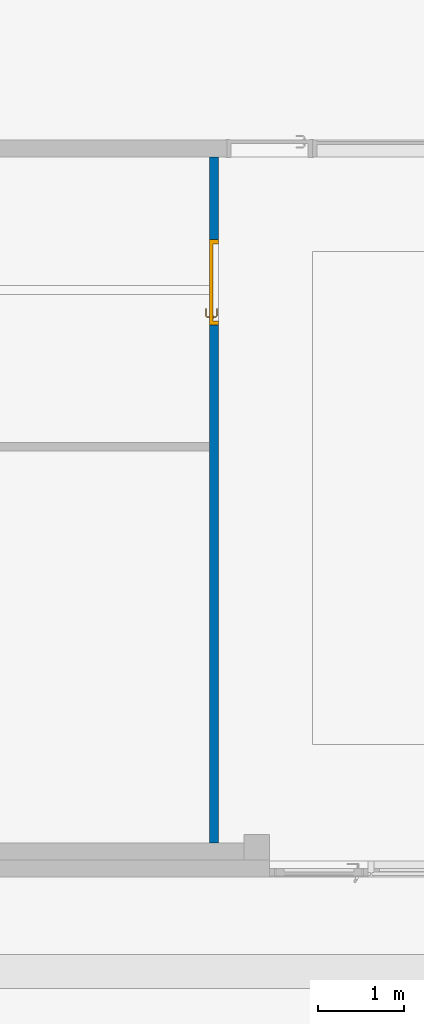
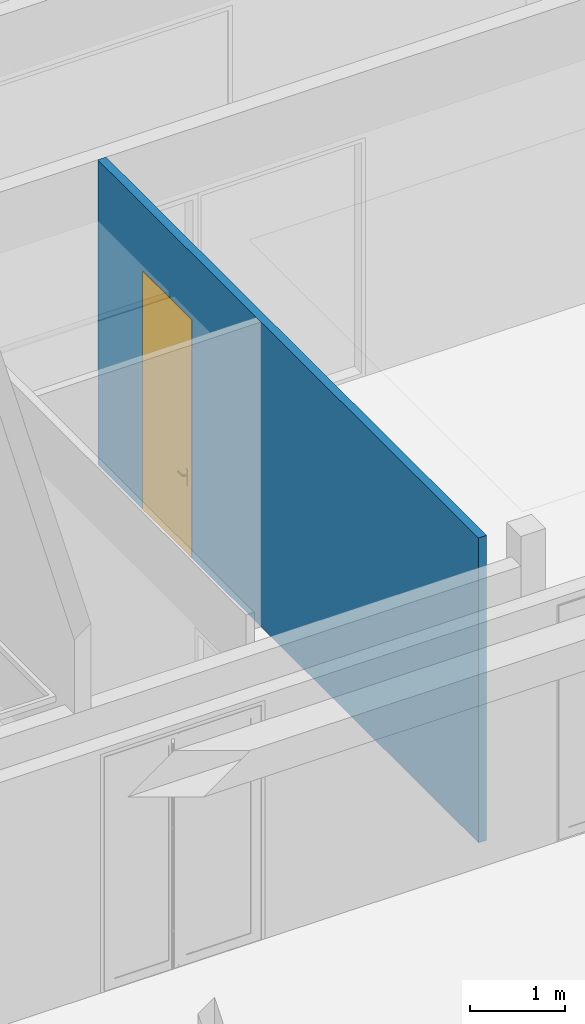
# One storey, part 126 of 240: 1 door, 1 wall, 1 opening.
"""IFC2X3 building model written with IfcOpenShell, lengths in centimetres."""

from ifc_helpers import new_model, entity, si_unit, converted_unit, derived_unit, direction, frame, frame_2d, origin, place, context, subcontext, project, spatial, polyline, rectangle, extrude, clip, bounded_halfspace, faceted_brep, source, transform, mapped, material, material_list, layer, layer_set, layer_usage, type_object, type_shapes, element, fill, save


model = new_model("IFC2X3")

# Units and contexts
model_context = context("Model", 3, precision=0.001, world=origin(), true_north=direction((6.12303176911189e-17, 1.0)))
body_context = subcontext(model_context, "Body", "Model", "MODEL_VIEW")
ifc_project = project(units=[si_unit("LENGTHUNIT", "METRE", prefix="CENTI"), si_unit("AREAUNIT", "SQUARE_METRE"), si_unit("VOLUMEUNIT", "CUBIC_METRE"), converted_unit("PLANEANGLEUNIT", "DEGREE", entity("IfcRatioMeasure", 0.0174532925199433), si_unit("PLANEANGLEUNIT", "RADIAN"), dimensions=[0, 0, 0, 0, 0, 0, 0]), si_unit("MASSUNIT", "GRAM", prefix="KILO"), derived_unit("MASSDENSITYUNIT", [(si_unit("MASSUNIT", "GRAM", prefix="KILO"), 1), (si_unit("LENGTHUNIT", "METRE"), -3)]), si_unit("TIMEUNIT", "SECOND"), si_unit("FREQUENCYUNIT", "HERTZ"), si_unit("THERMODYNAMICTEMPERATUREUNIT", "DEGREE_CELSIUS"), derived_unit("THERMALTRANSMITTANCEUNIT", [(si_unit("MASSUNIT", "GRAM", prefix="KILO"), 1), (si_unit("THERMODYNAMICTEMPERATUREUNIT", "KELVIN"), -1), (si_unit("TIMEUNIT", "SECOND"), -3)]), derived_unit("VOLUMETRICFLOWRATEUNIT", [(si_unit("LENGTHUNIT", "METRE"), 3), (si_unit("TIMEUNIT", "SECOND"), -1)]), si_unit("ELECTRICCURRENTUNIT", "AMPERE"), si_unit("ELECTRICVOLTAGEUNIT", "VOLT"), si_unit("POWERUNIT", "WATT"), si_unit("FORCEUNIT", "NEWTON", prefix="KILO"), si_unit("ILLUMINANCEUNIT", "LUX"), si_unit("LUMINOUSFLUXUNIT", "LUMEN"), si_unit("LUMINOUSINTENSITYUNIT", "CANDELA"), derived_unit("USERDEFINED", [(si_unit("MASSUNIT", "GRAM", prefix="KILO"), -1), (si_unit("LENGTHUNIT", "METRE"), -2), (si_unit("TIMEUNIT", "SECOND"), 3), (si_unit("LUMINOUSFLUXUNIT", "LUMEN"), 1)]), derived_unit("LINEARVELOCITYUNIT", [(si_unit("LENGTHUNIT", "METRE"), 1), (si_unit("TIMEUNIT", "SECOND"), -1)]), si_unit("PRESSUREUNIT", "PASCAL"), derived_unit("USERDEFINED", [(si_unit("LENGTHUNIT", "METRE"), -2), (si_unit("MASSUNIT", "GRAM", prefix="KILO"), 1), (si_unit("TIMEUNIT", "SECOND"), -2)])], contexts=[model_context])

# Site, building, storey
site_placement = place(None, frame((-2781.94577612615, 7442.24238424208, 0.0)))
site = spatial("IfcSite", under=ifc_project, at=site_placement, Name="Default", CompositionType="ELEMENT")
building_placement = place(site_placement, origin())
building = spatial("IfcBuilding", under=site, at=building_placement, CompositionType="ELEMENT")
storey_placement = place(building_placement, origin())
storey = spatial("IfcBuildingStorey", under=building, at=storey_placement, Name="N00 - COO", CompositionType="ELEMENT", Elevation=0.0)

# Wall, opening, door
ifc_material_1 = material(Name="01 - Enduit/Plâtre")
ifc_layer_1 = layer(ifc_material_1, 1.3)
ifc_material_2 = material(Name="00 - Isolant")
ifc_layer_2 = layer(ifc_material_2, 7.4)
ifc_layer_3 = layer(ifc_material_1, 1.3)
ifc_layer_set = layer_set([ifc_layer_1, ifc_layer_2, ifc_layer_3], Name="Mur de base:06 - cloisons - Ba13 10cm")
ifc_layer_usage = layer_usage(ifc_layer_set, "AXIS2", "NEGATIVE", 5.0)
wall_type = type_object("IfcWallType", Name="Mur de base:06 - cloisons - Ba13 10cm", PredefinedType="STANDARD", material=ifc_layer_set)
wall_placement = place(building_placement, frame((-7479.49987760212, -1110.0, 0.0), z_axis=(0.0, 0.0, 1.0), x_axis=(0.0, -1.0, 0.0)))
wall = element("IfcWallStandardCase", 1, at=wall_placement, inside=storey, type_object=wall_type, material=ifc_layer_usage, Name="Mur de base:06 - cloisons - Ba13 10cm", ObjectType="Mur de base:06 - cloisons - Ba13 10cm", context=body_context, shape_type="Clipping", body=[
    clip(extrude(rectangle(XDim=800.079033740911, YDim=9.99999999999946, at=frame_2d((400.039516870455, -2.08721928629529e-14), x_axis=(-1.0, 0.0))), origin(), (0.0, 0.0, 1.0), 391.0), bounded_halfspace(frame((0.0, -5.0, 391.0), z_axis=(0.0, 0.0, -1.0), x_axis=(-1.0, 0.0, 0.0)), True, frame((0.0, -5.0, 391.0)), polyline([(0.0, 0.0), (333.0, 0.0), (343.0, 0.0), (795.079033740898, 0.0), (795.079033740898, 10.0), (0.0, 10.0), (0.0, 0.0)]))),
])
opening_placement = place(wall_placement, frame((196.079033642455, 5.0, 0.0)))
opening = element("IfcOpeningElement", 2, at=opening_placement, cuts=wall, Name="Int. Simple:PV (0.93m x 3.00m):1", ObjectType="Opening", context=body_context, shape_type="SweptSolid", body=[
    extrude(rectangle(XDim=304.500000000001, YDim=99.9999999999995, at=frame_2d((152.250000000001, 49.9999999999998), x_axis=(1.0, 0.0))), frame((0.0, 0.0, 0.0), z_axis=(0.0, -1.0, 0.0), x_axis=(0.0, 0.0, 1.0)), (0.0, 0.0, 1.0), 10.0),
])
ifc_material_3 = material(Name="Finition Peinture - Blanc satiné")
ifc_material_4 = material(Name="Bois - Panneau de porte")
ifc_material_5 = material(Name="Bois - Cadre de porte")
ifc_material_list_1 = material_list([ifc_material_3, ifc_material_4, ifc_material_5])
ifc_material_list_2 = material_list([ifc_material_3, ifc_material_4, ifc_material_5])
door_style = type_object("IfcDoorStyle", Name="PV (0.93m x 3.00m)", ConstructionType="NOTDEFINED", OperationType="SINGLE_SWING_RIGHT", ParameterTakesPrecedence=False, Sizeable=False, material=ifc_material_list_2)
shared_shape = source(origin(), body_context, "Body", "Brep", [
    faceted_brep([(99.5000000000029, -0.500000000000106, 87.0), (99.5000000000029, -0.500000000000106, 108.0), (98.535276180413, -0.500000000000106, 108.399601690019), (97.5000000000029, -0.500000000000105, 108.535898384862), (96.4647238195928, -0.500000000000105, 108.399601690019), (95.500000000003, -0.500000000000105, 108.0), (95.5000000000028, -0.500000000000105, 87.0), (96.4647238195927, -0.500000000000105, 86.6003983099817), (97.5000000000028, -0.500000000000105, 86.464101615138), (98.5352761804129, -0.500000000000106, 86.6003983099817), (99.5000000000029, 0.0, 108.0), (99.5000000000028, 0.0, 87.0), (98.5352761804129, 0.0, 86.6003983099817), (97.5000000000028, 0.0, 86.464101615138), (96.4647238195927, 0.0, 86.6003983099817), (95.5000000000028, 0.0, 87.0), (95.5000000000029, 0.0, 108.0), (96.4647238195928, 0.0, 108.399601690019), (97.5000000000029, 0.0, 108.535898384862), (98.535276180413, 0.0, 108.399601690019)], [[[0, 1, 2, 3, 4, 5, 6, 7, 8, 9]], [[10, 11, 12, 13, 14, 15, 16, 17, 18, 19]], [[9, 12, 11, 0]], [[8, 13, 12, 9]], [[7, 14, 13, 8]], [[7, 6, 15, 14]], [[15, 6, 5, 16]], [[4, 17, 16, 5]], [[3, 18, 17, 4]], [[2, 19, 18, 3]], [[2, 1, 10, 19]], [[11, 10, 1, 0]]]),
    faceted_brep([(99.5000000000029, 4.0, 87.0), (99.5000000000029, 4.0, 108.0), (98.535276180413, 4.0, 108.399601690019), (97.5000000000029, 4.0, 108.535898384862), (96.4647238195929, 4.0, 108.399601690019), (95.500000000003, 4.0, 108.0), (95.5000000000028, 4.0, 87.0), (96.4647238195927, 4.0, 86.6003983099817), (97.5000000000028, 4.0, 86.464101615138), (98.5352761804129, 4.0, 86.6003983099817), (97.5000000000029, 4.49999999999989, 108.535898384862), (98.535276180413, 4.49999999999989, 108.399601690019), (99.5000000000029, 4.49999999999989, 108.0), (99.5000000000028, 4.49999999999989, 87.0), (98.5352761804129, 4.49999999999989, 86.6003983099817), (97.5000000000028, 4.49999999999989, 86.464101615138), (96.4647238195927, 4.49999999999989, 86.6003983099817), (95.5000000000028, 4.49999999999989, 87.0), (95.500000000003, 4.49999999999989, 108.0), (96.4647238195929, 4.49999999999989, 108.399601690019)], [[[0, 1, 2, 3, 4, 5, 6, 7, 8, 9]], [[10, 11, 12, 13, 14, 15, 16, 17, 18, 19]], [[4, 19, 18, 5]], [[3, 10, 19, 4]], [[2, 11, 10, 3]], [[2, 1, 12, 11]], [[13, 12, 1, 0]], [[9, 14, 13, 0]], [[8, 15, 14, 9]], [[7, 16, 15, 8]], [[7, 6, 17, 16]], [[17, 6, 5, 18]]]),
    faceted_brep([(97.2974701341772, -0.50000000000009, 100.778044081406), (97.7025298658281, -0.500000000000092, 100.778044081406), (98.1000000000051, -0.500000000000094, 100.699999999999), (98.100000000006, -0.500000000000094, 99.2999999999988), (97.7025298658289, -0.500000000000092, 99.221955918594), (97.297470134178, -0.50000000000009, 99.2219559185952), (96.9000000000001, -0.500000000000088, 99.3000000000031), (96.9000000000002, -0.500000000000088, 100.7), (97.7025298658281, -3.10045754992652, 100.778044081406), (98.1000000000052, -3.26509507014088, 100.7), (97.2974701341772, -2.93267631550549, 100.778044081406), (95.9298602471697, -4.30028620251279, 100.778044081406), (96.0976414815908, -4.70534593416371, 100.778044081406), (96.9000000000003, -2.76803879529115, 100.7), (96.9000000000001, -2.76803879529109, 99.3000000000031), (97.297470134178, -2.93267631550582, 99.2219559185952), (97.7025298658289, -3.10045754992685, 99.221955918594), (96.0976414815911, -4.70534593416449, 99.221955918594), (95.9298602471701, -4.30028620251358, 99.2219559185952), (98.100000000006, -3.26509507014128, 99.2999999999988), (96.2622790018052, -5.10281606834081, 100.7), (95.7652227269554, -3.90281606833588, 100.7), (95.7652227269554, -3.90281606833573, 99.3000000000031), (96.2622790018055, -5.10281606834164, 99.2999999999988), (87.4981359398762, -5.10281606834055, 100.7), (87.4981359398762, -4.70534593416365, 100.778044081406), (87.4981359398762, -4.30028620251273, 100.778044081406), (87.4981359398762, -3.90281606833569, 100.699999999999), (87.4981359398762, -3.90281606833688, 99.3000000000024), (87.4981359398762, -4.30028620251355, 99.2219559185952), (87.4981359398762, -4.70534593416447, 99.221955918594), (87.4981359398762, -5.10281606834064, 99.2999999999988), (91.7139980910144, -4.5028160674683, 100.78786867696), (92.2692302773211, -5.1028160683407, 100.7), (91.6316793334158, -3.9028160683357, 100.7), (91.631679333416, -3.9028160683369, 99.3000000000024), (91.7139981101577, -4.50281607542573, 99.2121313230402), (92.2692310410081, -5.10281606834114, 99.2999999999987)], [[[0, 1, 2, 3, 4, 5, 6, 7]], [[2, 1, 8, 9]], [[1, 0, 10, 11, 12, 8]], [[0, 7, 13, 10]], [[14, 13, 7, 6]], [[5, 15, 14, 6]], [[5, 4, 16, 17, 18, 15]], [[3, 19, 16, 4]], [[9, 19, 3, 2]], [[9, 8, 12, 20]], [[10, 13, 21, 11]], [[22, 21, 13, 14]], [[14, 15, 18, 22]], [[16, 19, 23, 17]], [[20, 23, 19, 9]], [[24, 25, 26, 27, 28, 29, 30, 31]], [[32, 25, 33]], [[33, 25, 24]], [[33, 20, 12]], [[11, 34, 32]], [[34, 11, 21]], [[27, 26, 34]], [[32, 26, 25]], [[32, 34, 26]], [[32, 33, 12]], [[11, 32, 12]], [[21, 22, 35, 28, 27, 34]], [[36, 29, 35]], [[30, 36, 37]], [[18, 35, 22]], [[29, 28, 35]], [[30, 37, 31]], [[37, 17, 23]], [[36, 17, 37]], [[36, 18, 17]], [[36, 35, 18]], [[29, 36, 30]], [[23, 20, 33, 24, 31, 37]]]),
    faceted_brep([(97.2974701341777, 4.49999999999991, 99.2219559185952), (97.7025298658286, 4.49999999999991, 99.221955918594), (98.1000000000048, 4.4999999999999, 99.2999999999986), (98.1000000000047, 4.4999999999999, 100.7), (97.7025298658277, 4.49999999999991, 100.778044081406), (97.2974701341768, 4.49999999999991, 100.778044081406), (96.8999999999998, 4.49999999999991, 100.7), (96.900000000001, 4.49999999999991, 99.3000000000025), (96.8999999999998, 6.7485204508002, 100.7), (96.8999999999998, 6.74852045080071, 99.3000000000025), (97.2974701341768, 6.91315797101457, 100.778044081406), (97.7025298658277, 7.0809392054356, 100.778044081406), (96.0838906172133, 8.69957845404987, 100.778044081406), (95.9161093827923, 8.29451872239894, 100.778044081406), (98.1000000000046, 7.24557672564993, 100.7), (98.1000000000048, 7.24557672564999, 99.2999999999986), (97.7025298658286, 7.08093920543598, 99.221955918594), (97.2974701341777, 6.91315797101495, 99.2219559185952), (95.9161093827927, 8.29451872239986, 99.2219559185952), (96.0838906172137, 8.69957845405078, 99.221955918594), (95.751471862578, 7.89704858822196, 100.7), (95.7514718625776, 7.89704858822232, 99.3000000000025), (96.2485281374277, 9.09704858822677, 100.7), (96.2485281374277, 9.09704858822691, 99.2999999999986), (87.4954216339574, 8.29451872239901, 100.778044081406), (87.4954216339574, 8.69957845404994, 100.778044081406), (87.4954216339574, 9.09704858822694, 100.7), (87.4954216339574, 9.09704858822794, 99.2999999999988), (87.4954216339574, 8.6995784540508, 99.221955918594), (87.4954216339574, 8.29451872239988, 99.2219559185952), (87.4954216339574, 7.89704858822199, 99.3000000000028), (87.4954216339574, 7.89704858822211, 100.7), (91.6234467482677, 7.89704858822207, 100.7), (91.6234479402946, 7.89704858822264, 99.3000000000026), (91.7057655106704, 8.49704858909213, 100.78786867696), (92.255479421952, 9.09704858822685, 100.7), (92.2554795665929, 9.09704858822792, 99.2999999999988), (91.7057654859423, 8.49704858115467, 99.2121313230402)], [[[0, 1, 2, 3, 4, 5, 6, 7]], [[8, 9, 7, 6]], [[5, 10, 8, 6]], [[5, 4, 11, 12, 13, 10]], [[3, 14, 11, 4]], [[14, 3, 2, 15]], [[2, 1, 16, 15]], [[1, 0, 17, 18, 19, 16]], [[0, 7, 9, 17]], [[20, 21, 9, 8]], [[8, 10, 13, 20]], [[14, 22, 12, 11]], [[23, 22, 14, 15]], [[15, 16, 19, 23]], [[17, 9, 21, 18]], [[24, 25, 26, 27, 28, 29, 30, 31]], [[21, 20, 32, 31, 30, 33]], [[34, 24, 32]], [[25, 34, 35]], [[13, 32, 20]], [[24, 31, 32]], [[25, 35, 26]], [[35, 12, 22]], [[34, 12, 35]], [[34, 13, 12]], [[34, 32, 13]], [[24, 34, 25]], [[22, 23, 36, 27, 26, 35]], [[37, 28, 36]], [[36, 28, 27]], [[36, 23, 19]], [[18, 33, 37]], [[33, 18, 21]], [[30, 29, 33]], [[37, 29, 28]], [[37, 33, 29]], [[37, 36, 19]], [[18, 37, 19]]]),
    faceted_brep([(103.500000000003, 4.0, 301.0), (103.500000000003, 4.0, 0.0), (10.5000000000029, 4.0, 0.0), (10.5000000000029, 4.0, 301.0), (103.500000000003, 0.0, 301.0), (10.5000000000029, 0.0, 301.0), (10.5000000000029, 0.0, 0.0), (103.500000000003, 0.0, 0.0)], [[[0, 1, 2, 3]], [[4, 5, 6, 7]], [[3, 5, 4, 0]], [[2, 6, 5, 3]], [[1, 7, 6, 2]], [[0, 4, 7, 1]]]),
    faceted_brep([(107.0, 10.0, 0.0), (107.0, 0.0, 0.0), (108.500000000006, 0.0, 0.0), (108.500000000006, -0.500000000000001, 0.0), (103.500000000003, -0.500000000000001, 0.0), (103.500000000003, 4.0, 0.0), (102.0, 4.0, 0.0), (102.0, 10.5000000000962, 0.0), (108.500000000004, 10.5000000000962, 0.0), (108.500000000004, 10.0, 0.0), (108.500000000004, 10.0, 306.0), (5.50000000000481, 10.0, 306.0), (5.50000000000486, 10.0, 0.0), (7.0, 10.0, 0.0), (7.0, 10.0, 304.500000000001), (107.0, 10.0, 304.500000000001), (108.500000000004, 10.5000000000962, 306.0), (102.0, 10.5000000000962, 299.5), (12.0, 10.5000000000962, 299.5), (12.0, 10.5000000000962, 0.0), (5.50000000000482, 10.5000000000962, 0.0), (5.50000000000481, 10.5000000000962, 306.0), (102.0, 4.0, 299.5), (103.500000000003, 4.0, 301.0), (10.5000000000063, 4.0, 301.0), (10.5000000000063, 4.0, 0.0), (12.0, 4.0, 0.0), (12.0, 4.0, 299.5), (103.500000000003, -0.500000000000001, 301.0), (108.500000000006, -0.500000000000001, 306.0), (5.5000000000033, -0.500000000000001, 306.0), (5.50000000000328, -0.500000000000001, 0.0), (10.5000000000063, -0.500000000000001, 0.0), (10.5000000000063, -0.500000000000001, 301.0), (108.500000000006, 0.0, 306.0), (107.0, 0.0, 304.500000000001), (7.0, 0.0, 304.500000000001), (7.0, 0.0, 0.0), (5.5000000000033, 0.0, 0.0), (5.50000000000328, 0.0, 306.0)], [[[0, 1, 2, 3, 4, 5, 6, 7, 8, 9]], [[9, 10, 11, 12, 13, 14, 15, 0]], [[8, 16, 10, 9]], [[7, 17, 18, 19, 20, 21, 16, 8]], [[7, 6, 22, 17]], [[5, 23, 24, 25, 26, 27, 22, 6]], [[5, 4, 28, 23]], [[3, 29, 30, 31, 32, 33, 28, 4]], [[2, 34, 29, 3]], [[1, 35, 36, 37, 38, 39, 34, 2]], [[0, 15, 35, 1]], [[14, 13, 37, 36]], [[13, 12, 20, 19, 26, 25, 32, 31, 38, 37]], [[21, 20, 12, 11]], [[27, 26, 19, 18]], [[33, 32, 25, 24]], [[39, 38, 31, 30]], [[15, 14, 36, 35]], [[16, 21, 11, 10]], [[22, 27, 18, 17]], [[28, 33, 24, 23]], [[34, 39, 30, 29]]]),
])
type_shapes(door_style, [shared_shape])
door_placement = place(opening_placement, frame((-107.0, -10.0, 0.0)))
door = element("IfcDoor", 3, at=door_placement, inside=storey, type_object=door_style, material=ifc_material_list_1, Name="Int. Simple:PV (0.93m x 3.00m)", ObjectType="Int. Simple:PV (0.93m x 3.00m)", OverallHeight=304.500000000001, OverallWidth=99.9999999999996, context=body_context, shape_type="MappedRepresentation", body=[
    mapped(shared_shape, transform((0.0, 0.0, 0.0), scale=1.0)),
])
fill(opening, door)

save(model, "model.ifc")
